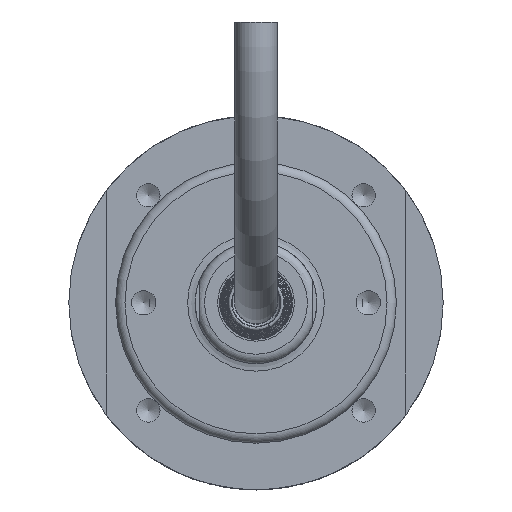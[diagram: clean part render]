
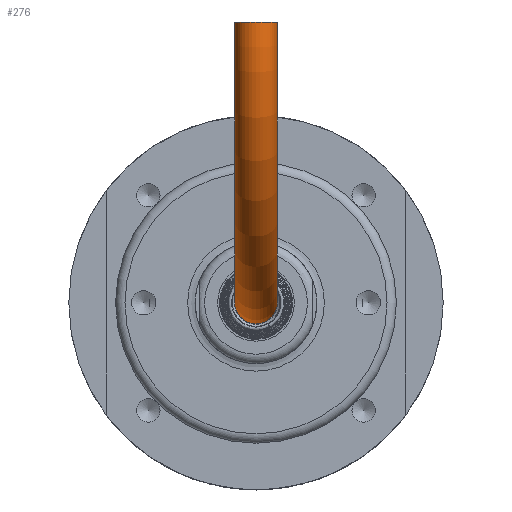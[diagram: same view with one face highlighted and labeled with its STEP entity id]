
A CAD part, front view. The second image highlights one B-rep face of the part: STEP entity #276.
In plain terms, the highlighted toroidal (fillet/blend) face has major radius 30 mm and minor radius 2.25 mm.
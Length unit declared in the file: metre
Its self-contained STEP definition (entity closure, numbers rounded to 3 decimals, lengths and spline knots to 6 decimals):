
#276 = ADVANCED_FACE( '', ( #560, #561 ), #562, .T. );
#560 = FACE_OUTER_BOUND( '', #9691, .T. );
#561 = FACE_OUTER_BOUND( '', #9692, .T. );
#562 = TOROIDAL_SURFACE( '', #9693, 0.03, 0.00225 );
#9691 = EDGE_LOOP( '', ( #12821 ) );
#9692 = EDGE_LOOP( '', ( #12822 ) );
#9693 = AXIS2_PLACEMENT_3D( '', #12823, #12824, #12825 );
#12821 = ORIENTED_EDGE( '', *, *, #13245, .T. );
#12822 = ORIENTED_EDGE( '', *, *, #13246, .F. );
#12823 = CARTESIAN_POINT( '', ( 0., -0.043, 0.03 ) );
#12824 = DIRECTION( '', ( -1., 0., 0. ) );
#12825 = DIRECTION( '', ( 0., 1., 0. ) );
#13245 = EDGE_CURVE( '', #13644, #13644, #13645, .T. );
#13246 = EDGE_CURVE( '', #13646, #13646, #13647, .T. );
#13644 = VERTEX_POINT( '', #16550 );
#13645 = CIRCLE( '', #16551, 0.00225 );
#13646 = VERTEX_POINT( '', #16552 );
#13647 = CIRCLE( '', #16553, 0.00225 );
#16550 = CARTESIAN_POINT( '', ( 0.00225, -0.043, 0. ) );
#16551 = AXIS2_PLACEMENT_3D( '', #19018, #19019, #19020 );
#16552 = CARTESIAN_POINT( '', ( 0., -0.07075, 0.03 ) );
#16553 = AXIS2_PLACEMENT_3D( '', #19021, #19022, #19023 );
#19018 = CARTESIAN_POINT( '', ( 0., -0.043, 0. ) );
#19019 = DIRECTION( '', ( 0., -1., 0. ) );
#19020 = DIRECTION( '', ( 1., 0., 0. ) );
#19021 = CARTESIAN_POINT( '', ( 0., -0.073, 0.03 ) );
#19022 = DIRECTION( '', ( 0., 0., 1. ) );
#19023 = DIRECTION( '', ( 0., 1., 0. ) );
